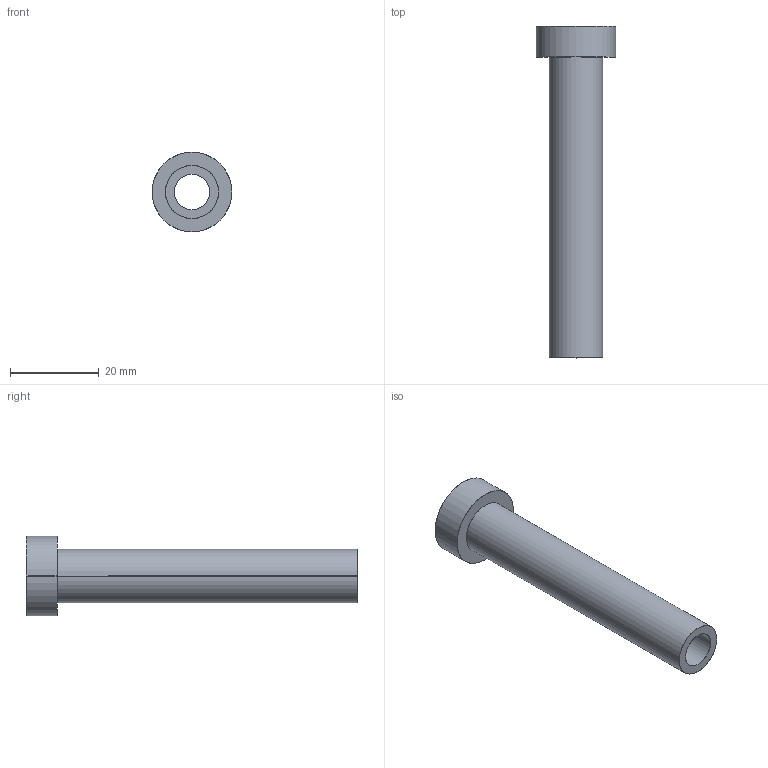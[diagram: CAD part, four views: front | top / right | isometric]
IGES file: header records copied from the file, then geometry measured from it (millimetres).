
Start section: SolidWorks IGES file using analytic representation for surfaces
Global section: file name: D:\Cleonir_particular\Matripeças\Buchas Extratoras\BE08,012075.IGS; native system: SolidWorks 2013; preprocessor: SolidWorks 2013; author: Cleonir; date: 130304.172119; units: millimetre
Bounding box: 18 x 75 x 18 mm (x, y, z)
Surface area: 5314.1 mm2 (no closed solid volume)
Topology: 0 solids, 0 shells, 322 faces, 3188 edges, 3188 vertices
Faces by surface type: bspline 302, revolution 20
